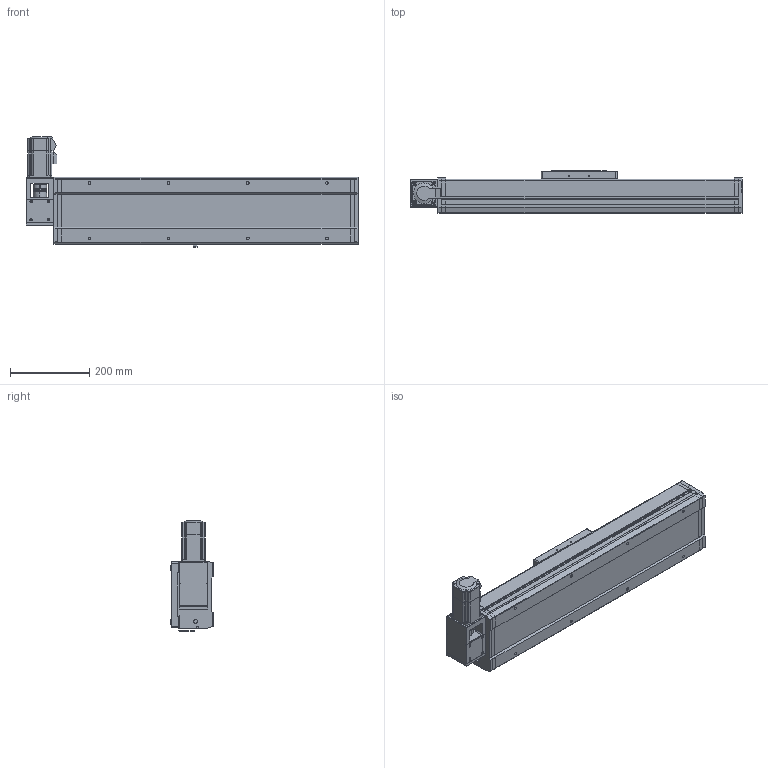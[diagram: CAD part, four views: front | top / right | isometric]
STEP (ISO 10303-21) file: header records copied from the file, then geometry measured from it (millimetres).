
FILE_DESCRIPTION((''),'2;1');
FILE_NAME('170-TZJ3FL-S450_ASM','2015-12-04T',('lenovo'),(''),'PRO/ENGINEER BY PARAMETRIC TECHNOLOGY CORPORATION, 2010280','PRO/ENGINEER BY PARAMETRIC TECHNOLOGY CORPORATION, 2010280','');
FILE_SCHEMA(('CONFIG_CONTROL_DESIGN'));
Length unit declared in the file: millimetre
Products named in the file (5): 170-TJFL-DZ; 170-HK; 170-HDB-01; 170-TZJ3FL-DJZ; 170-TZJ3FL-S450_ASM
Assembly tree (4 placements, depth 2):
  170-TZJ3FL-S450_ASM
    170-TJFL-DZ
    170-HK
    170-HDB-01
    170-TZJ3FL-DJZ
Bounding box: 839 x 107 x 278.5 mm (x, y, z)
Volume: 6681813 mm3; surface area: 1055931.1 mm2
Topology: 6 solids, 30 shells, 1468 faces, 3997 edges, 2665 vertices
Faces by surface type: plane 788, cylinder 539, cone 113, torus 28
Entity records: 47099 total; most frequent: CARTESIAN_POINT 8413, DIRECTION 8260, ORIENTED_EDGE 7994, EDGE_CURVE 3997, AXIS2_PLACEMENT_3D 2828, VERTEX_POINT 2665, VECTOR 2604, LINE 2604
